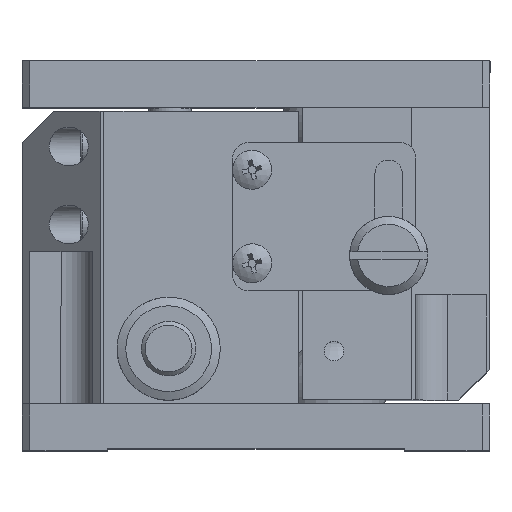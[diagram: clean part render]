
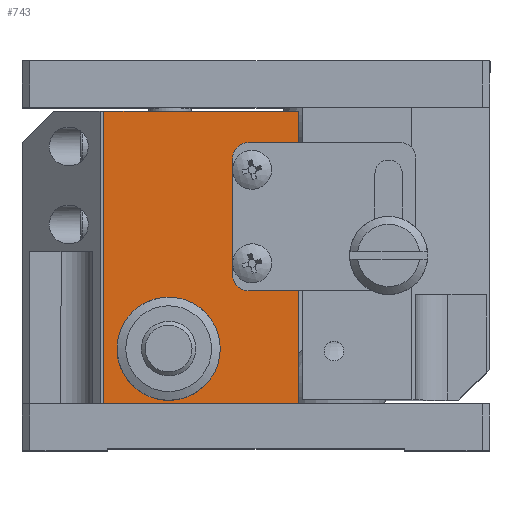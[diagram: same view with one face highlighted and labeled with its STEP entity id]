
A CAD part, top view. The second image highlights one B-rep face of the part: STEP entity #743.
In plain terms, the highlighted planar face has unit normal (0, 0, 1).
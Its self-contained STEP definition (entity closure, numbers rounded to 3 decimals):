
#743 = ADVANCED_FACE ( 'NONE', ( #55549, #61689, #66044, #38555 ), #11118, .F. ) ;
#2680 = LINE ( 'NONE', #63040, #59994 ) ;
#3697 = CARTESIAN_POINT ( 'NONE',  ( 12.069, 114.634, 82.107 ) ) ;
#5205 = CARTESIAN_POINT ( 'NONE',  ( 31.069, 143.609, 82.107 ) ) ;
#5807 = VERTEX_POINT ( 'NONE', #43988 ) ;
#6044 = DIRECTION ( 'NONE',  ( 0., 0., -1. ) ) ;
#11118 = PLANE ( 'NONE',  #37442 ) ;
#13541 = EDGE_CURVE ( 'NONE', #46278, #46278, #16418, .T. ) ;
#15906 = DIRECTION ( 'NONE',  ( 0., 0., 1. ) ) ;
#16418 = CIRCLE ( 'NONE', #68381, 1.025 ) ;
#17929 = CARTESIAN_POINT ( 'NONE',  ( 31.069, 132.634, 82.107 ) ) ;
#18100 = CARTESIAN_POINT ( 'NONE',  ( 31.069, 131.609, 82.107 ) ) ;
#19307 = LINE ( 'NONE', #40271, #28606 ) ;
#22663 = DIRECTION ( 'NONE',  ( 0., 1., 0. ) ) ;
#23693 = DIRECTION ( 'NONE',  ( 0., -1., 0. ) ) ;
#24366 = DIRECTION ( 'NONE',  ( 1., 0., 0. ) ) ;
#25417 = VERTEX_POINT ( 'NONE', #41685 ) ;
#27729 = CARTESIAN_POINT ( 'NONE',  ( 37.069, 152.134, 82.107 ) ) ;
#28606 = VECTOR ( 'NONE', #24366, 1000. ) ;
#28977 = CARTESIAN_POINT ( 'NONE',  ( 37.069, 152.134, 82.107 ) ) ;
#29682 = EDGE_LOOP ( 'NONE', ( #57962 ) ) ;
#30754 = ORIENTED_EDGE ( 'NONE', *, *, #45051, .F. ) ;
#33494 = AXIS2_PLACEMENT_3D ( 'NONE', #38279, #15906, #71525 ) ;
#34635 = CIRCLE ( 'NONE', #33494, 1.025 ) ;
#35348 = EDGE_CURVE ( 'NONE', #59500, #41405, #61051, .T. ) ;
#36049 = DIRECTION ( 'NONE',  ( 1., 0., 0. ) ) ;
#37442 = AXIS2_PLACEMENT_3D ( 'NONE', #27729, #6044, #22663 ) ;
#37897 = DIRECTION ( 'NONE',  ( 0., 0., 1. ) ) ;
#38279 = CARTESIAN_POINT ( 'NONE',  ( 31.069, 144.634, 82.107 ) ) ;
#38419 = VERTEX_POINT ( 'NONE', #5205 ) ;
#38555 = FACE_OUTER_BOUND ( 'NONE', #50683, .T. ) ;
#38766 = ORIENTED_EDGE ( 'NONE', *, *, #49185, .F. ) ;
#38845 = CARTESIAN_POINT ( 'NONE',  ( 12.069, 152.134, 82.107 ) ) ;
#39341 = ORIENTED_EDGE ( 'NONE', *, *, #64757, .F. ) ;
#39795 = LINE ( 'NONE', #28977, #46004 ) ;
#40271 = CARTESIAN_POINT ( 'NONE',  ( 37.069, 114.634, 82.107 ) ) ;
#41073 = EDGE_LOOP ( 'NONE', ( #38766 ) ) ;
#41405 = VERTEX_POINT ( 'NONE', #3697 ) ;
#41502 = CIRCLE ( 'NONE', #69390, 4.75 ) ;
#41685 = CARTESIAN_POINT ( 'NONE',  ( 37.069, 114.634, 82.107 ) ) ;
#43866 = CARTESIAN_POINT ( 'NONE',  ( 25.119, 121.634, 82.107 ) ) ;
#43988 = CARTESIAN_POINT ( 'NONE',  ( 37.069, 152.134, 82.107 ) ) ;
#44418 = CARTESIAN_POINT ( 'NONE',  ( 12.069, 152.134, 82.107 ) ) ;
#44933 = VERTEX_POINT ( 'NONE', #43866 ) ;
#45051 = EDGE_CURVE ( 'NONE', #5807, #25417, #2680, .T. ) ;
#46004 = VECTOR ( 'NONE', #46322, 1000. ) ;
#46278 = VERTEX_POINT ( 'NONE', #18100 ) ;
#46322 = DIRECTION ( 'NONE',  ( 1., 0., 0. ) ) ;
#47077 = EDGE_CURVE ( 'NONE', #38419, #38419, #34635, .T. ) ;
#49185 = EDGE_CURVE ( 'NONE', #44933, #44933, #41502, .T. ) ;
#50683 = EDGE_LOOP ( 'NONE', ( #70812, #30754, #39341, #52145 ) ) ;
#52145 = ORIENTED_EDGE ( 'NONE', *, *, #35348, .T. ) ;
#55549 = FACE_BOUND ( 'NONE', #29682, .T. ) ;
#57374 = VECTOR ( 'NONE', #61409, 1000. ) ;
#57962 = ORIENTED_EDGE ( 'NONE', *, *, #47077, .F. ) ;
#58108 = DIRECTION ( 'NONE',  ( 0., 0., 1. ) ) ;
#58663 = EDGE_CURVE ( 'NONE', #41405, #25417, #19307, .T. ) ;
#59500 = VERTEX_POINT ( 'NONE', #38845 ) ;
#59994 = VECTOR ( 'NONE', #62339, 1000. ) ;
#61051 = LINE ( 'NONE', #44418, #57374 ) ;
#61409 = DIRECTION ( 'NONE',  ( 0., -1., 0. ) ) ;
#61689 = FACE_BOUND ( 'NONE', #65966, .T. ) ;
#62339 = DIRECTION ( 'NONE',  ( 0., -1., 0. ) ) ;
#63040 = CARTESIAN_POINT ( 'NONE',  ( 37.069, 152.134, 82.107 ) ) ;
#64097 = ORIENTED_EDGE ( 'NONE', *, *, #13541, .F. ) ;
#64256 = CARTESIAN_POINT ( 'NONE',  ( 20.369, 121.634, 82.107 ) ) ;
#64757 = EDGE_CURVE ( 'NONE', #59500, #5807, #39795, .T. ) ;
#65966 = EDGE_LOOP ( 'NONE', ( #64097 ) ) ;
#66044 = FACE_BOUND ( 'NONE', #41073, .T. ) ;
#68381 = AXIS2_PLACEMENT_3D ( 'NONE', #17929, #37897, #23693 ) ;
#69390 = AXIS2_PLACEMENT_3D ( 'NONE', #64256, #58108, #36049 ) ;
#70812 = ORIENTED_EDGE ( 'NONE', *, *, #58663, .T. ) ;
#71525 = DIRECTION ( 'NONE',  ( 0., -1., 0. ) ) ;
